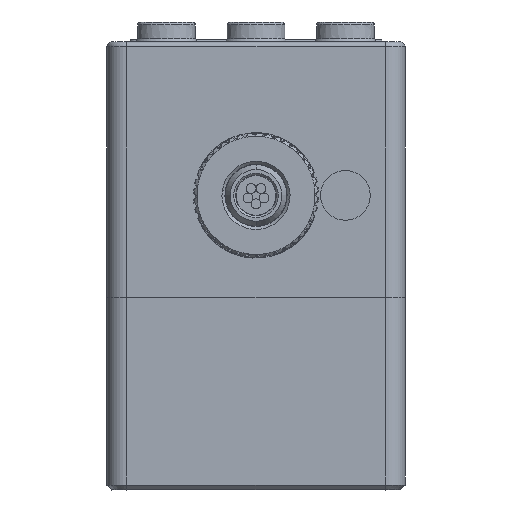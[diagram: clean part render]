
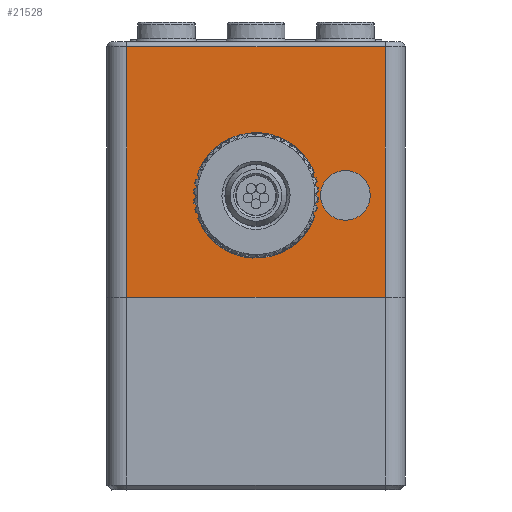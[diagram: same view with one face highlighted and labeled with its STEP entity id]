
A CAD part, front view. The second image highlights one B-rep face of the part: STEP entity #21528.
In plain terms, the highlighted planar face has unit normal (0, -1, 0).
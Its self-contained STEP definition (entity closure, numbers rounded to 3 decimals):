
#1353=DIRECTION('',(1.,0.,0.));
#1354=VECTOR('',#1353,26.);
#1355=CARTESIAN_POINT('',(-13.,-15.,4.5));
#1356=LINE('',#1355,#1354);
#1357=DIRECTION('',(0.,0.,-1.));
#1358=VECTOR('',#1357,25.2);
#1359=CARTESIAN_POINT('',(-13.,-15.,29.7));
#1360=LINE('',#1359,#1358);
#1361=DIRECTION('',(1.,0.,0.));
#1362=VECTOR('',#1361,26.);
#1363=CARTESIAN_POINT('',(-13.,-15.,29.7));
#1364=LINE('',#1363,#1362);
#1365=DIRECTION('',(0.,0.,-1.));
#1366=VECTOR('',#1365,25.2);
#1367=CARTESIAN_POINT('',(13.,-15.,29.7));
#1368=LINE('',#1367,#1366);
#1369=CARTESIAN_POINT('',(0.,-15.,14.75));
#1370=DIRECTION('',(0.,-1.,0.));
#1371=DIRECTION('',(-0.898,0.,-0.44));
#1372=AXIS2_PLACEMENT_3D('',#1369,#1370,#1371);
#1374=DIRECTION('',(-0.017,0.,-1.));
#1375=VECTOR('',#1374,2.35);
#1376=CARTESIAN_POINT('',(5.8,-15.,14.75));
#1377=LINE('',#1376,#1375);
#1378=DIRECTION('',(0.017,0.,-1.));
#1379=VECTOR('',#1378,2.35);
#1380=CARTESIAN_POINT('',(5.759,-15.,17.1));
#1381=LINE('',#1380,#1379);
#1382=CARTESIAN_POINT('',(0.,-15.,14.75));
#1383=DIRECTION('',(0.,-1.,0.));
#1384=DIRECTION('',(0.898,0.,0.44));
#1385=AXIS2_PLACEMENT_3D('',#1382,#1383,#1384);
#1387=DIRECTION('',(0.017,0.,1.));
#1388=VECTOR('',#1387,2.35);
#1389=CARTESIAN_POINT('',(-5.8,-15.,14.75));
#1390=LINE('',#1389,#1388);
#1391=DIRECTION('',(-0.017,0.,1.));
#1392=VECTOR('',#1391,2.35);
#1393=CARTESIAN_POINT('',(-5.759,-15.,12.4));
#1394=LINE('',#1393,#1392);
#1395=CARTESIAN_POINT('',(9.,-15.,14.75));
#1396=DIRECTION('',(0.,1.,0.));
#1397=DIRECTION('',(-1.,0.,0.));
#1398=AXIS2_PLACEMENT_3D('',#1395,#1396,#1397);
#1400=CARTESIAN_POINT('',(9.,-15.,14.75));
#1401=DIRECTION('',(0.,1.,0.));
#1402=DIRECTION('',(1.,0.,0.));
#1403=AXIS2_PLACEMENT_3D('',#1400,#1401,#1402);
#6964=CARTESIAN_POINT('',(-4.759,-15.,17.083));
#6965=DIRECTION('',(0.,1.,0.));
#6966=DIRECTION('',(-1.,0.,0.017));
#6967=AXIS2_PLACEMENT_3D('',#6964,#6965,#6966);
#6991=CARTESIAN_POINT('',(-4.759,-15.,12.417));
#6992=DIRECTION('',(0.,1.,0.));
#6993=DIRECTION('',(-0.898,0.,-0.44));
#6994=AXIS2_PLACEMENT_3D('',#6991,#6992,#6993);
#8105=CARTESIAN_POINT('',(4.759,-15.,17.083));
#8106=DIRECTION('',(0.,1.,0.));
#8107=DIRECTION('',(0.898,0.,0.44));
#8108=AXIS2_PLACEMENT_3D('',#8105,#8106,#8107);
#8130=CARTESIAN_POINT('',(4.759,-15.,12.417));
#8131=DIRECTION('',(0.,1.,0.));
#8132=DIRECTION('',(1.,0.,-0.017));
#8133=AXIS2_PLACEMENT_3D('',#8130,#8131,#8132);
#17675=CARTESIAN_POINT('',(-13.,-15.,4.5));
#17676=CARTESIAN_POINT('',(13.,-15.,4.5));
#17677=VERTEX_POINT('',#17675);
#17678=VERTEX_POINT('',#17676);
#17699=CARTESIAN_POINT('',(13.,-15.,29.7));
#17700=VERTEX_POINT('',#17699);
#17705=CARTESIAN_POINT('',(-13.,-15.,29.7));
#17706=VERTEX_POINT('',#17705);
#17795=CARTESIAN_POINT('',(6.643,-15.,14.75));
#17796=CARTESIAN_POINT('',(11.357,-15.,14.75));
#17797=VERTEX_POINT('',#17795);
#17798=VERTEX_POINT('',#17796);
#18007=CARTESIAN_POINT('',(5.8,-15.,14.75));
#18008=VERTEX_POINT('',#18007);
#18018=CARTESIAN_POINT('',(5.759,-15.,17.1));
#18019=VERTEX_POINT('',#18018);
#18020=CARTESIAN_POINT('',(5.759,-15.,12.4));
#18021=VERTEX_POINT('',#18020);
#18022=CARTESIAN_POINT('',(5.657,-15.,17.523));
#18023=VERTEX_POINT('',#18022);
#18024=CARTESIAN_POINT('',(5.657,-15.,11.977));
#18025=VERTEX_POINT('',#18024);
#18033=CARTESIAN_POINT('',(-5.657,-15.,17.523));
#18034=VERTEX_POINT('',#18033);
#18035=CARTESIAN_POINT('',(-5.657,-15.,11.977));
#18036=VERTEX_POINT('',#18035);
#18046=CARTESIAN_POINT('',(-5.759,-15.,12.4));
#18047=CARTESIAN_POINT('',(-5.8,-15.,14.75));
#18048=VERTEX_POINT('',#18046);
#18049=VERTEX_POINT('',#18047);
#18050=CARTESIAN_POINT('',(-5.759,-15.,17.1));
#18051=VERTEX_POINT('',#18050);
#21487=CARTESIAN_POINT('',(-15.,-15.,2.9));
#21488=DIRECTION('',(0.,-1.,0.));
#21489=DIRECTION('',(1.,0.,0.));
#21490=AXIS2_PLACEMENT_3D('',#21487,#21488,#21489);
#21491=PLANE('',#21490);
#21492=ORIENTED_EDGE('',*,*,#20172,.F.);
#21494=ORIENTED_EDGE('',*,*,#21493,.F.);
#21496=ORIENTED_EDGE('',*,*,#21495,.T.);
#21497=ORIENTED_EDGE('',*,*,#21479,.T.);
#21498=EDGE_LOOP('',(#21492,#21494,#21496,#21497));
#21499=FACE_OUTER_BOUND('',#21498,.F.);
#21501=ORIENTED_EDGE('',*,*,#21500,.T.);
#21503=ORIENTED_EDGE('',*,*,#21502,.F.);
#21505=ORIENTED_EDGE('',*,*,#21504,.F.);
#21507=ORIENTED_EDGE('',*,*,#21506,.F.);
#21509=ORIENTED_EDGE('',*,*,#21508,.F.);
#21511=ORIENTED_EDGE('',*,*,#21510,.T.);
#21513=ORIENTED_EDGE('',*,*,#21512,.F.);
#21515=ORIENTED_EDGE('',*,*,#21514,.F.);
#21517=ORIENTED_EDGE('',*,*,#21516,.F.);
#21519=ORIENTED_EDGE('',*,*,#21518,.F.);
#21520=EDGE_LOOP('',(#21501,#21503,#21505,#21507,#21509,#21511,#21513,#21515,
#21517,#21519));
#21521=FACE_BOUND('',#21520,.F.);
#21523=ORIENTED_EDGE('',*,*,#21522,.F.);
#21525=ORIENTED_EDGE('',*,*,#21524,.F.);
#21526=EDGE_LOOP('',(#21523,#21525));
#21527=FACE_BOUND('',#21526,.F.);
#21528=ADVANCED_FACE('',(#21499,#21521,#21527),#21491,.T.);
#1373=CIRCLE('',#1372,6.3);
#1386=CIRCLE('',#1385,6.3);
#1399=CIRCLE('',#1398,2.357);
#1404=CIRCLE('',#1403,2.357);
#6968=CIRCLE('',#6967,1.);
#6995=CIRCLE('',#6994,1.);
#8109=CIRCLE('',#8108,1.);
#8134=CIRCLE('',#8133,1.);
#20172=EDGE_CURVE('',#17677,#17678,#1356,.T.);
#21479=EDGE_CURVE('',#17700,#17678,#1368,.T.);
#21493=EDGE_CURVE('',#17706,#17677,#1360,.T.);
#21495=EDGE_CURVE('',#17706,#17700,#1364,.T.);
#21500=EDGE_CURVE('',#18036,#18025,#1373,.T.);
#21502=EDGE_CURVE('',#18021,#18025,#8134,.T.);
#21504=EDGE_CURVE('',#18008,#18021,#1377,.T.);
#21506=EDGE_CURVE('',#18019,#18008,#1381,.T.);
#21508=EDGE_CURVE('',#18023,#18019,#8109,.T.);
#21510=EDGE_CURVE('',#18023,#18034,#1386,.T.);
#21512=EDGE_CURVE('',#18051,#18034,#6968,.T.);
#21514=EDGE_CURVE('',#18049,#18051,#1390,.T.);
#21516=EDGE_CURVE('',#18048,#18049,#1394,.T.);
#21518=EDGE_CURVE('',#18036,#18048,#6995,.T.);
#21522=EDGE_CURVE('',#17797,#17798,#1399,.T.);
#21524=EDGE_CURVE('',#17798,#17797,#1404,.T.);
